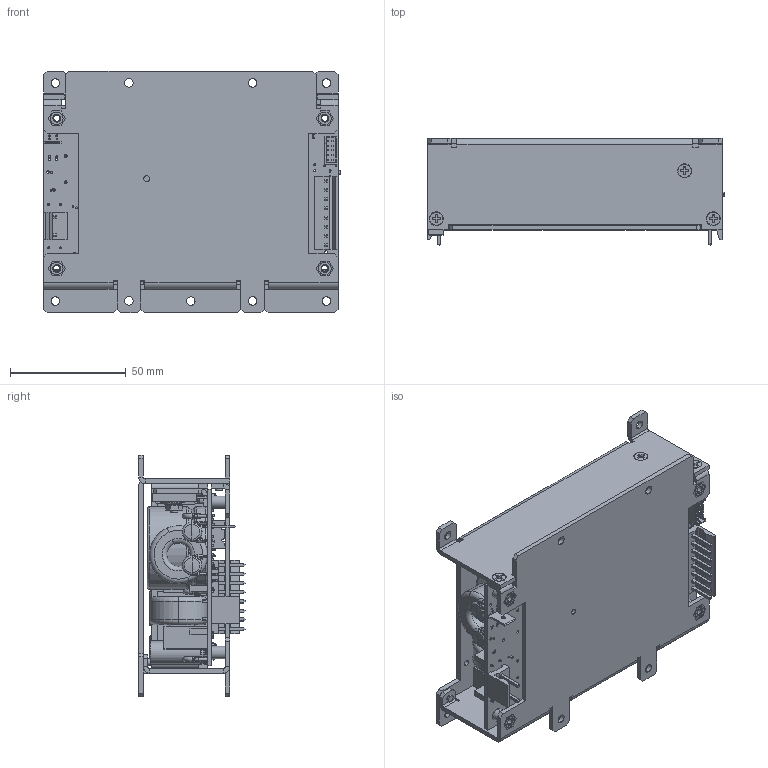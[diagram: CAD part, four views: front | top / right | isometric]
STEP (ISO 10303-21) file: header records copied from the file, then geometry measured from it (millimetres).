
FILE_DESCRIPTION (( 'STEP AP214' ), '1' );
FILE_NAME ('ECC100-12-48V-SINGLE-OUTPUT.STEP', '2010-06-23T19:01:51', ( 'ALL' ), ( 'XP Power' ), 'SwSTEP 2.0', 'SolidWorks 2010', '' );
FILE_SCHEMA (( 'AUTOMOTIVE_DESIGN' ));
Length unit declared in the file: inch
Products named in the file (29): Screw_Flat Head Phillips (Metric)_(1312)_M3 x 5; 1000765702 COVER; Screw_Flat Head Phillips (Metric)_(1315)_M3 x 10; 1000765401; Capacitor Elec_10mm D_25mm; Pot_top adj_PC1_01; 1000765501; Nut_Keps_4-40_conical_01; xfmr 700x430x710 8pin; Capacitor Disc_0.300 D; CAP-MLC-01; NUT-HEX_M3.0; SCREW-PFH(90)_M3.0x06; XFR-04; SCREW-PPH_M3.0X06; Cap-Elec-35mm D_30mm H; CAP FILM_26X10X19MM_22LS; TO-220_3P-1; 1000765602 CHAS ; ECC100-12-48V-SINGLE-OUTPUT; 1000627303; 1000765201; PEM Standoff_SO series (US)_01_6-32 x .312; IND-TOR_25 ODX12mm; CON MLX  .156 3P; CON Quick-Fit .250 -01; CON JST_S10B-PHDSS-B_Vertical; CON MLX  .156 08P; Bridge Rectifier_GBU6K_01_Lead trimed
Assembly tree (62 placements, depth 3):
  ECC100-12-48V-SINGLE-OUTPUT
    Screw_Flat Head Phillips (Metric)_(1312)_M3 x 5  x7
    1000765702 COVER
    1000765602 CHAS 
    1000765201
      Capacitor Elec_10mm D_25mm  x7
      xfmr 700x430x710 8pin
      NUT-HEX_M3.0  x3
      Capacitor Disc_0.300 D  x9
      CAP FILM_26X10X19MM_22LS  x2
      Screw_Flat Head Phillips (Metric)_(1315)_M3 x 10
      Nut_Keps_4-40_conical_01
      CAP-MLC-01  x2
      XFR-04  x2
      TO-220_3P-1  x3
      1000765501
      Bridge Rectifier_GBU6K_01_Lead trimed
      SCREW-PFH(90)_M3.0x06  x3
      1000627303
      Pot_top adj_PC1_01
      CON MLX  .156 08P
      IND-TOR_25 ODX12mm  x2
      CON Quick-Fit .250 -01
      CON MLX  .156 3P
      SCREW-PPH_M3.0X06  x2
      Cap-Elec-35mm D_30mm H
      CON JST_S10B-PHDSS-B_Vertical
      1000765401
    PEM Standoff_SO series (US)_01_6-32 x .312  x4
Bounding box: 128.02 x 46.02 x 104.19 mm (x, y, z)
Volume: 176250.6 mm3; surface area: 133921 mm2
Topology: 61 solids, 70 shells, 2761 faces, 6688 edges, 4225 vertices
Faces by surface type: plane 1540, cylinder 819, cone 220, torus 134, bspline 36, sphere 12
Entity records: 69503 total; most frequent: CARTESIAN_POINT 11047, DIRECTION 9590, ORIENTED_EDGE 9060, EDGE_CURVE 4530, AXIS2_PLACEMENT_3D 3249, VECTOR 3092, LINE 3092, VERTEX_POINT 2910
